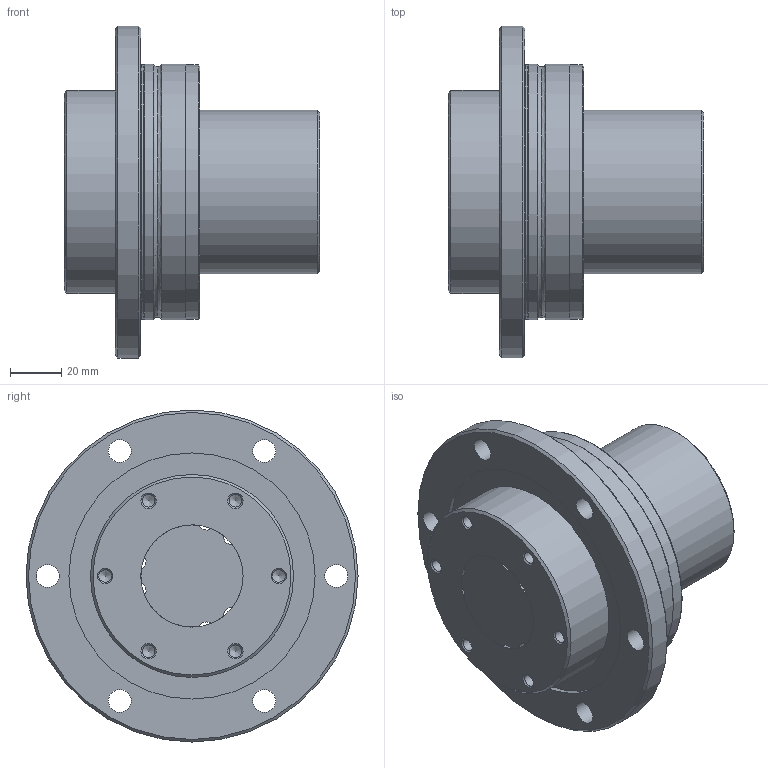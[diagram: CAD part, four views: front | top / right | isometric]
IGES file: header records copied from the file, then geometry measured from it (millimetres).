
Start section: Data from Parasolid IGES Translator 26.0.171, Copyright(c) 2006 Siemens PLM Software. All Rights Reserved.
Global section: file name: LTR40A+100L(0_0).igs; native system: By Siemens PLM Incorporated; preprocessor: XPlus GENERIC/IGES 26.0.171; author: Noname; organization: Noname; date: 20240528.075223; units: millimetre
Bounding box: 100 x 130 x 130 mm (x, y, z)
Surface area: 149671.5 mm2 (no closed solid volume)
Topology: 0 solids, 0 shells, 127 faces, 590 edges, 500 vertices
Faces by surface type: revolution 105, extrusion 22
